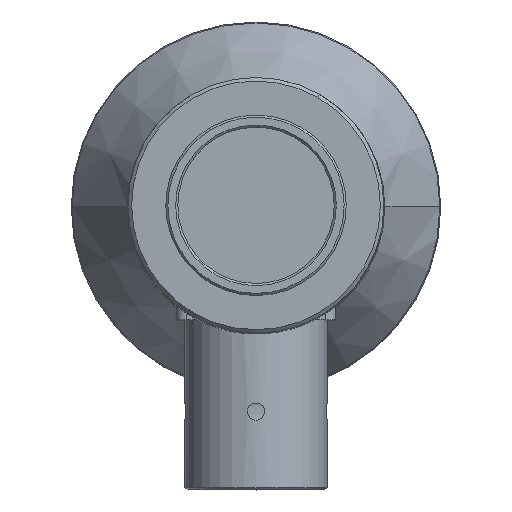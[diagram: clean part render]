
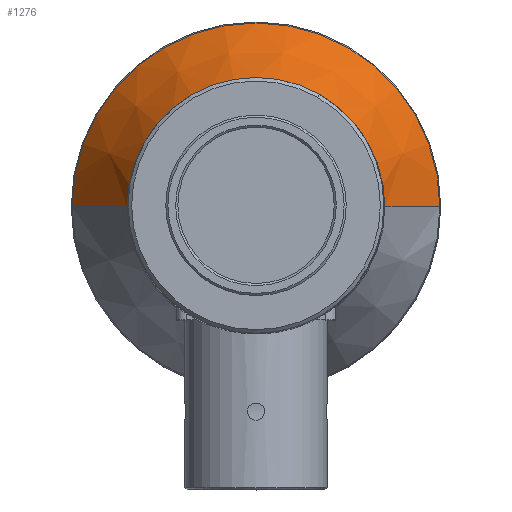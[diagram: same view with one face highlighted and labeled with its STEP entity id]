
A CAD part, top view. The second image highlights one B-rep face of the part: STEP entity #1276.
In plain terms, the highlighted conical face has half-angle 30 degrees and reference radius 26 mm.
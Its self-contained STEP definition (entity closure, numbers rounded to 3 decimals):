
#75 = VERTEX_POINT ( 'NONE', #1556 ) ;
#117 = DIRECTION ( 'NONE',  ( -1., 0., 0. ) ) ;
#306 = EDGE_CURVE ( 'NONE', #75, #2687, #4190, .T. ) ;
#541 = CARTESIAN_POINT ( 'NONE',  ( -18.134, 0., -2.401 ) ) ;
#751 = CARTESIAN_POINT ( 'NONE',  ( -25.866, 0., -15.793 ) ) ;
#782 = AXIS2_PLACEMENT_3D ( 'NONE', #3180, #3885, #117 ) ;
#783 = ORIENTED_EDGE ( 'NONE', *, *, #1457, .T. ) ;
#1066 = CARTESIAN_POINT ( 'NONE',  ( -26., 0., -16.025 ) ) ;
#1190 = AXIS2_PLACEMENT_3D ( 'NONE', #2043, #1725, #4195 ) ;
#1219 = DIRECTION ( 'NONE',  ( -1., 0., 0. ) ) ;
#1276 = ADVANCED_FACE ( 'NONE', ( #3349 ), #1548, .T. ) ;
#1457 = EDGE_CURVE ( 'NONE', #2687, #1616, #3517, .T. ) ;
#1517 = ORIENTED_EDGE ( 'NONE', *, *, #2984, .F. ) ;
#1548 = CONICAL_SURFACE ( 'NONE', #2750, 26., 0.524 ) ;
#1556 = CARTESIAN_POINT ( 'NONE',  ( 18.134, 0., -2.401 ) ) ;
#1616 = VERTEX_POINT ( 'NONE', #751 ) ;
#1700 = CARTESIAN_POINT ( 'NONE',  ( 26., 0., -16.025 ) ) ;
#1725 = DIRECTION ( 'NONE',  ( 0., 0., 1. ) ) ;
#1788 = VERTEX_POINT ( 'NONE', #541 ) ;
#1956 = EDGE_LOOP ( 'NONE', ( #4089, #3154, #783, #1517 ) ) ;
#2043 = CARTESIAN_POINT ( 'NONE',  ( 0., 0., -15.793 ) ) ;
#2402 = CARTESIAN_POINT ( 'NONE',  ( 25.866, 0., -15.793 ) ) ;
#2687 = VERTEX_POINT ( 'NONE', #2402 ) ;
#2750 = AXIS2_PLACEMENT_3D ( 'NONE', #4030, #4375, #1219 ) ;
#2820 = DIRECTION ( 'NONE',  ( -0.5, 0., -0.866 ) ) ;
#2861 = VECTOR ( 'NONE', #2820, 1000. ) ;
#2877 = VECTOR ( 'NONE', #4517, 1000. ) ;
#2900 = EDGE_CURVE ( 'NONE', #1788, #75, #4228, .T. ) ;
#2984 = EDGE_CURVE ( 'NONE', #1788, #1616, #3617, .T. ) ;
#3154 = ORIENTED_EDGE ( 'NONE', *, *, #306, .T. ) ;
#3180 = CARTESIAN_POINT ( 'NONE',  ( 0., 0., -2.401 ) ) ;
#3349 = FACE_OUTER_BOUND ( 'NONE', #1956, .T. ) ;
#3517 = CIRCLE ( 'NONE', #1190, 25.866 ) ;
#3617 = LINE ( 'NONE', #1066, #2861 ) ;
#3885 = DIRECTION ( 'NONE',  ( 0., 0., -1. ) ) ;
#4030 = CARTESIAN_POINT ( 'NONE',  ( 0., 0., -16.025 ) ) ;
#4089 = ORIENTED_EDGE ( 'NONE', *, *, #2900, .T. ) ;
#4190 = LINE ( 'NONE', #1700, #2877 ) ;
#4195 = DIRECTION ( 'NONE',  ( 1., 0., 0. ) ) ;
#4228 = CIRCLE ( 'NONE', #782, 18.134 ) ;
#4375 = DIRECTION ( 'NONE',  ( 0., 0., -1. ) ) ;
#4517 = DIRECTION ( 'NONE',  ( 0.5, 0., -0.866 ) ) ;
